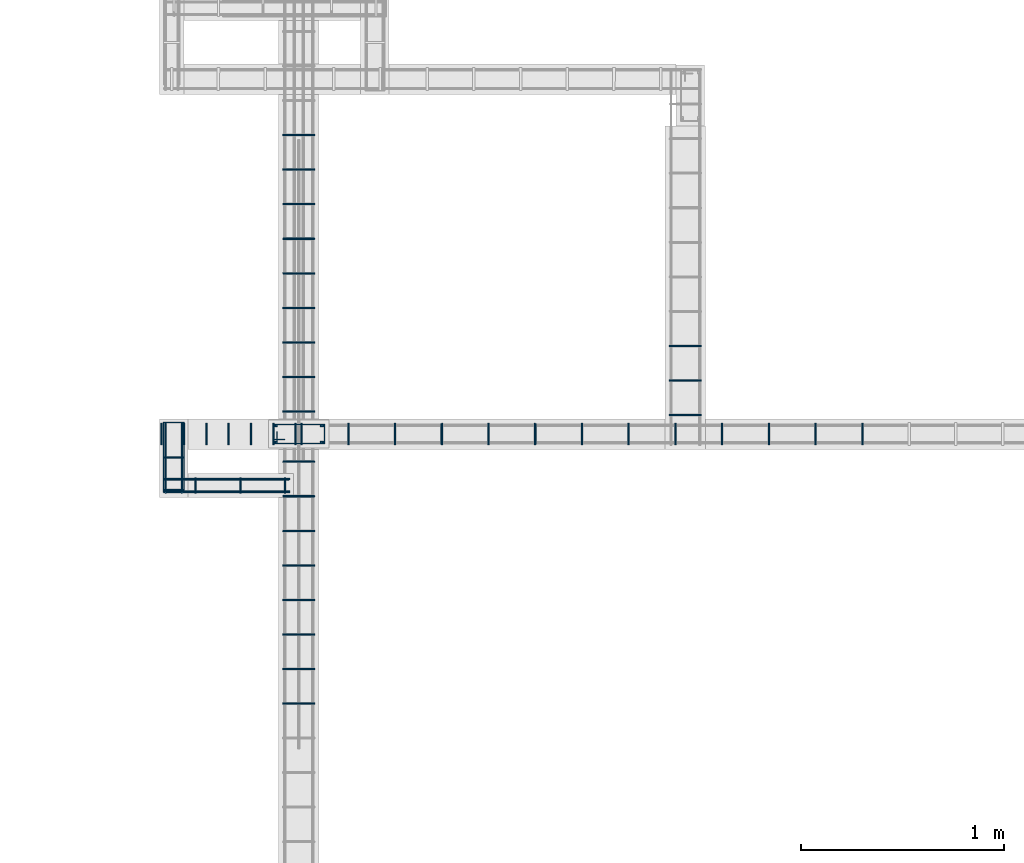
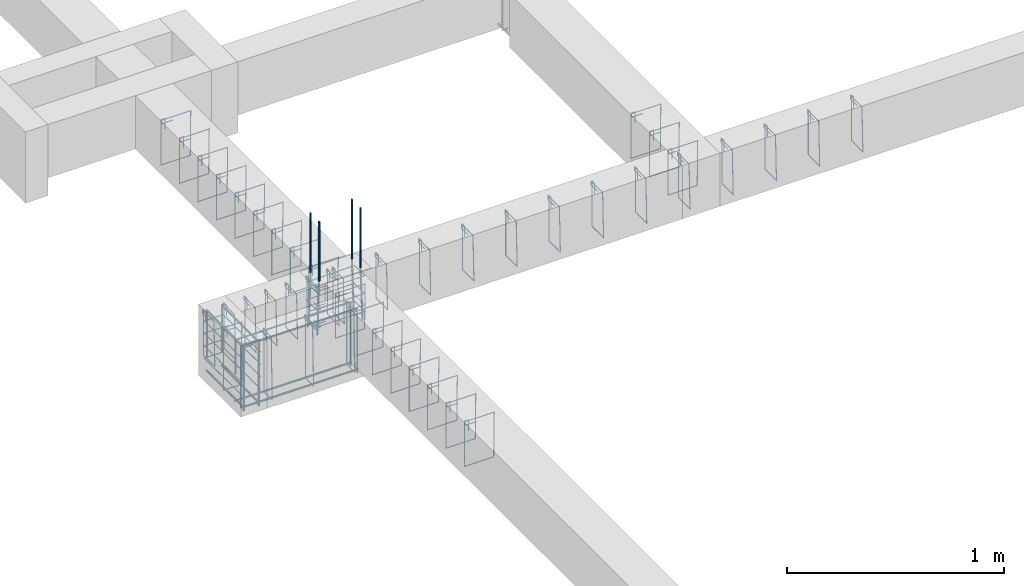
# One storey, part 74 of 150: 64 reinforcing bars.
"""IFC4 building model written with IfcOpenShell, lengths in centimetres."""

from ifc_helpers import new_model, entity, si_unit, derived_unit, frame, origin_with_axes, place, context, project, spatial, source, transform, mapped, element, save


model = new_model("IFC4")

# Units and contexts
model_context = context("Model", 3, precision=1e-05, world=origin_with_axes(), identifier="Body")
ifc_project = project(units=[si_unit("LENGTHUNIT", "METRE", prefix="CENTI"), si_unit("VOLUMEUNIT", "CUBIC_METRE"), si_unit("AREAUNIT", "SQUARE_METRE"), si_unit("POWERUNIT", "WATT"), si_unit("LUMINOUSFLUXUNIT", "LUMEN"), si_unit("ELECTRICCURRENTUNIT", "AMPERE"), si_unit("PRESSUREUNIT", "PASCAL", prefix="KILO"), si_unit("MASSUNIT", "GRAM", prefix="KILO"), si_unit("PLANEANGLEUNIT", "RADIAN"), derived_unit("VOLUMETRICFLOWRATEUNIT", [(si_unit("LENGTHUNIT", "METRE"), 3), (si_unit("TIMEUNIT", "SECOND"), -1)])], contexts=[model_context])

# Site, building, storey
site_placement = place(None, frame((-4000.0, 0.0, 0.0), z_axis=(0.0, 0.0, 1.0), x_axis=(1.0, 0.0, 0.0)))
site = spatial("IfcSite", under=ifc_project, at=site_placement, Name="PADRÃO")
building_placement = place(site_placement, frame((0.0, 0.0, -14.0)))
building = spatial("IfcBuilding", under=site, at=building_placement, Name="CRECHE PRÉ-ESCOLA TIPO 2")
placement = place(building_placement, origin_with_axes())
storey_placement = place(placement, frame((0.0, 0.0, 30.0), z_axis=(0.0, 0.0, 1.0), x_axis=(1.0, 0.0, 0.0)))
storey = spatial("IfcBuildingStorey", under=building, at=storey_placement, Name="VIGA BALDRAME", CompositionType="ELEMENT", Elevation=16.0)

# Reinforcing bars
shared_shape_1 = source(origin_with_axes(), model_context, "Body", "AdvancedSweptSolid", [
    entity("IfcSweptDiskSolid", entity("IfcCompositeCurve", [entity("IfcCompositeCurveSegment", "CONTINUOUS", True, entity("IfcPolyline", [entity("IfcCartesianPoint", [4.25, 21.75, 0.0]), entity("IfcCartesianPoint", [4.25, 27.75, 0.0])])), entity("IfcCompositeCurveSegment", "CONTINUOUS", True, entity("IfcPolyline", [entity("IfcCartesianPoint", [4.25, 27.75, 0.0]), entity("IfcCartesianPoint", [2.25, 27.75, 0.0])])), entity("IfcCompositeCurveSegment", "CONTINUOUS", True, entity("IfcPolyline", [entity("IfcCartesianPoint", [2.25, 27.75, 0.0]), entity("IfcCartesianPoint", [2.25, 2.25, 0.0])])), entity("IfcCompositeCurveSegment", "CONTINUOUS", True, entity("IfcPolyline", [entity("IfcCartesianPoint", [2.25, 2.25, 0.0]), entity("IfcCartesianPoint", [11.75, 2.25, 0.0])])), entity("IfcCompositeCurveSegment", "CONTINUOUS", True, entity("IfcPolyline", [entity("IfcCartesianPoint", [11.75, 2.25, 0.0]), entity("IfcCartesianPoint", [11.75, 27.75, -0.5])])), entity("IfcCompositeCurveSegment", "CONTINUOUS", True, entity("IfcPolyline", [entity("IfcCartesianPoint", [11.75, 27.75, -0.5]), entity("IfcCartesianPoint", [2.25, 27.75, -0.5])])), entity("IfcCompositeCurveSegment", "CONTINUOUS", True, entity("IfcPolyline", [entity("IfcCartesianPoint", [2.25, 27.75, -0.5]), entity("IfcCartesianPoint", [2.25, 25.75, -0.5])])), entity("IfcCompositeCurveSegment", "CONTINUOUS", True, entity("IfcPolyline", [entity("IfcCartesianPoint", [2.25, 25.75, -0.5]), entity("IfcCartesianPoint", [8.25, 25.75, -0.5])]))], False), 0.25),
])
for number, where, z_axis, x_axis, name in (
    (1, (2541.0, 1740.84, -15.0), (0.0, 0.0, 1.0), (0.0, 1.0, 0.0), "P98 - Estribo"),
    (2, (2541.0, 1740.84, -25.0), (0.0, 0.0, 1.0), (0.0, 1.0, 0.0), "P98 - Estribo"),
    (3, (2541.0, 1740.84, -5.0), (0.0, 0.0, 1.0), (0.0, 1.0, 0.0), "P98 - Estribo"),
):
    element("IfcReinforcingBar", number, at=place(storey_placement, frame(where, z_axis=z_axis, x_axis=x_axis)), inside=storey, Name=name, BarLength=0.0, CrossSectionArea=1.9634954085e-05, NominalDiameter=0.5, PredefinedType="MAIN", context=model_context, shape_type="MappedRepresentation", body=[
        mapped(shared_shape_1, transform((0.0, 0.0, 0.0), scale=1.0)),
    ])
shared_shape_2 = source(origin_with_axes(), model_context, "Body", "AdvancedSweptSolid", [
    entity("IfcSweptDiskSolid", entity("IfcCompositeCurve", [entity("IfcCompositeCurveSegment", "CONTINUOUS", True, entity("IfcPolyline", [entity("IfcCartesianPoint", [2.0, -6.0, 0.0]), entity("IfcCartesianPoint", [2.0, 0.0, 0.0])])), entity("IfcCompositeCurveSegment", "CONTINUOUS", True, entity("IfcPolyline", [entity("IfcCartesianPoint", [2.0, 0.0, 0.0]), entity("IfcCartesianPoint", [0.0, 0.0, 0.0])])), entity("IfcCompositeCurveSegment", "CONTINUOUS", True, entity("IfcPolyline", [entity("IfcCartesianPoint", [0.0, 0.0, 0.0]), entity("IfcCartesianPoint", [0.0, -25.5, 0.0])])), entity("IfcCompositeCurveSegment", "CONTINUOUS", True, entity("IfcPolyline", [entity("IfcCartesianPoint", [0.0, -25.5, 0.0]), entity("IfcCartesianPoint", [15.5, -25.5, 0.0])])), entity("IfcCompositeCurveSegment", "CONTINUOUS", True, entity("IfcPolyline", [entity("IfcCartesianPoint", [15.5, -25.5, 0.0]), entity("IfcCartesianPoint", [15.5, 0.0, 0.5])])), entity("IfcCompositeCurveSegment", "CONTINUOUS", True, entity("IfcPolyline", [entity("IfcCartesianPoint", [15.5, 0.0, 0.5]), entity("IfcCartesianPoint", [0.0, 0.0, 0.5])])), entity("IfcCompositeCurveSegment", "CONTINUOUS", True, entity("IfcPolyline", [entity("IfcCartesianPoint", [0.0, 0.0, 0.5]), entity("IfcCartesianPoint", [0.0, -2.0, 0.5])])), entity("IfcCompositeCurveSegment", "CONTINUOUS", True, entity("IfcPolyline", [entity("IfcCartesianPoint", [0.0, -2.0, 0.5]), entity("IfcCartesianPoint", [6.0, -2.0, 0.5])]))], False), 0.25),
])
for number, where, z_axis, x_axis, name in (
    (4, (2518.25, 1615.46, -2.25), (0.0, -1.0, 0.0), (1.0, 0.0, 0.0), "V196 - Estribo"),
    (5, (2518.25, 1632.46, -2.25), (0.0, -1.0, 0.0), (1.0, 0.0, 0.0), "V196 - Estribo"),
    (6, (2518.25, 1649.46, -2.25), (0.0, -1.0, 0.0), (1.0, 0.0, 0.0), "V196 - Estribo"),
    (7, (2518.25, 1734.46, -2.25), (0.0, -1.0, 0.0), (1.0, 0.0, 0.0), "V196 - Estribo"),
    (8, (2518.25, 1717.46, -2.25), (0.0, -1.0, 0.0), (1.0, 0.0, 0.0), "V196 - Estribo"),
    (9, (2518.25, 1700.46, -2.25), (0.0, -1.0, 0.0), (1.0, 0.0, 0.0), "V196 - Estribo"),
    (10, (2518.25, 1683.46, -2.25), (0.0, -1.0, 0.0), (1.0, 0.0, 0.0), "V196 - Estribo"),
    (11, (2518.25, 1666.46, -2.25), (0.0, -1.0, 0.0), (1.0, 0.0, 0.0), "V196 - Estribo"),
):
    element("IfcReinforcingBar", number, at=place(storey_placement, frame(where, z_axis=z_axis, x_axis=x_axis)), inside=storey, Name=name, BarLength=0.0, CrossSectionArea=1.9634954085e-05, NominalDiameter=0.5, PredefinedType="MAIN", context=model_context, shape_type="MappedRepresentation", body=[
        mapped(shared_shape_2, transform((0.0, 0.0, 0.0), scale=1.0)),
    ])
shared_shape_3 = source(origin_with_axes(), model_context, "Body", "AdvancedSweptSolid", [
    entity("IfcSweptDiskSolid", entity("IfcCompositeCurve", [entity("IfcCompositeCurveSegment", "CONTINUOUS", True, entity("IfcPolyline", [entity("IfcCartesianPoint", [2.0, -6.0, 0.0]), entity("IfcCartesianPoint", [2.0, 0.0, 0.0])])), entity("IfcCompositeCurveSegment", "CONTINUOUS", True, entity("IfcPolyline", [entity("IfcCartesianPoint", [2.0, 0.0, 0.0]), entity("IfcCartesianPoint", [0.0, 0.0, 0.0])])), entity("IfcCompositeCurveSegment", "CONTINUOUS", True, entity("IfcPolyline", [entity("IfcCartesianPoint", [0.0, 0.0, 0.0]), entity("IfcCartesianPoint", [0.0, -25.5, 0.0])])), entity("IfcCompositeCurveSegment", "CONTINUOUS", True, entity("IfcPolyline", [entity("IfcCartesianPoint", [0.0, -25.5, 0.0]), entity("IfcCartesianPoint", [15.5, -25.5, 0.0])])), entity("IfcCompositeCurveSegment", "CONTINUOUS", True, entity("IfcPolyline", [entity("IfcCartesianPoint", [15.5, -25.5, 0.0]), entity("IfcCartesianPoint", [15.5, 0.0, 0.5])])), entity("IfcCompositeCurveSegment", "CONTINUOUS", True, entity("IfcPolyline", [entity("IfcCartesianPoint", [15.5, 0.0, 0.5]), entity("IfcCartesianPoint", [0.0, 0.0, 0.5])])), entity("IfcCompositeCurveSegment", "CONTINUOUS", True, entity("IfcPolyline", [entity("IfcCartesianPoint", [0.0, 0.0, 0.5]), entity("IfcCartesianPoint", [0.0, -2.0, 0.5])])), entity("IfcCompositeCurveSegment", "CONTINUOUS", True, entity("IfcPolyline", [entity("IfcCartesianPoint", [0.0, -2.0, 0.5]), entity("IfcCartesianPoint", [6.0, -2.0, 0.5])]))], False), 0.25),
])
for number, where, z_axis, x_axis, name in (
    (12, (2518.25, 1776.18, -2.25), (0.0, -1.0, 0.0), (1.0, 0.0, 0.0), "V196 - Estribo"),
    (13, (2518.25, 1895.18, -2.25), (0.0, -1.0, 0.0), (1.0, 0.0, 0.0), "V196 - Estribo"),
    (14, (2518.25, 1878.18, -2.25), (0.0, -1.0, 0.0), (1.0, 0.0, 0.0), "V196 - Estribo"),
    (15, (2518.25, 1861.18, -2.25), (0.0, -1.0, 0.0), (1.0, 0.0, 0.0), "V196 - Estribo"),
    (16, (2518.25, 1844.18, -2.25), (0.0, -1.0, 0.0), (1.0, 0.0, 0.0), "V196 - Estribo"),
    (17, (2518.25, 1827.18, -2.25), (0.0, -1.0, 0.0), (1.0, 0.0, 0.0), "V196 - Estribo"),
    (18, (2518.25, 1810.18, -2.25), (0.0, -1.0, 0.0), (1.0, 0.0, 0.0), "V196 - Estribo"),
    (19, (2518.25, 1793.18, -2.25), (0.0, -1.0, 0.0), (1.0, 0.0, 0.0), "V196 - Estribo"),
    (20, (2518.25, 1759.18, -2.25), (0.0, -1.0, 0.0), (1.0, 0.0, 0.0), "V196 - Estribo"),
):
    element("IfcReinforcingBar", number, at=place(storey_placement, frame(where, z_axis=z_axis, x_axis=x_axis)), inside=storey, Name=name, BarLength=0.0, CrossSectionArea=1.9634954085e-05, NominalDiameter=0.5, PredefinedType="MAIN", context=model_context, shape_type="MappedRepresentation", body=[
        mapped(shared_shape_3, transform((0.0, 0.0, 0.0), scale=1.0)),
    ])
shared_shape_4 = source(origin_with_axes(), model_context, "Body", "AdvancedSweptSolid", [
    entity("IfcSweptDiskSolid", entity("IfcCompositeCurve", [entity("IfcCompositeCurveSegment", "CONTINUOUS", True, entity("IfcPolyline", [entity("IfcCartesianPoint", [2.0, -6.0, 0.0]), entity("IfcCartesianPoint", [2.0, 0.0, 0.0])])), entity("IfcCompositeCurveSegment", "CONTINUOUS", True, entity("IfcPolyline", [entity("IfcCartesianPoint", [2.0, 0.0, 0.0]), entity("IfcCartesianPoint", [0.0, 0.0, 0.0])])), entity("IfcCompositeCurveSegment", "CONTINUOUS", True, entity("IfcPolyline", [entity("IfcCartesianPoint", [0.0, 0.0, 0.0]), entity("IfcCartesianPoint", [0.0, -25.5, 0.0])])), entity("IfcCompositeCurveSegment", "CONTINUOUS", True, entity("IfcPolyline", [entity("IfcCartesianPoint", [0.0, -25.5, 0.0]), entity("IfcCartesianPoint", [15.5, -25.5, 0.0])])), entity("IfcCompositeCurveSegment", "CONTINUOUS", True, entity("IfcPolyline", [entity("IfcCartesianPoint", [15.5, -25.5, 0.0]), entity("IfcCartesianPoint", [15.5, 0.0, 0.5])])), entity("IfcCompositeCurveSegment", "CONTINUOUS", True, entity("IfcPolyline", [entity("IfcCartesianPoint", [15.5, 0.0, 0.5]), entity("IfcCartesianPoint", [0.0, 0.0, 0.5])])), entity("IfcCompositeCurveSegment", "CONTINUOUS", True, entity("IfcPolyline", [entity("IfcCartesianPoint", [0.0, 0.0, 0.5]), entity("IfcCartesianPoint", [0.0, -2.0, 0.5])])), entity("IfcCompositeCurveSegment", "CONTINUOUS", True, entity("IfcPolyline", [entity("IfcCartesianPoint", [0.0, -2.0, 0.5]), entity("IfcCartesianPoint", [6.0, -2.0, 0.5])]))], False), 0.25),
])
for number, where, z_axis, x_axis, name in (
    (21, (2708.5, 1757.43, -2.25), (0.0, -1.0, 0.0), (1.0, 0.0, 0.0), "V205 - Estribo"),
    (22, (2708.5, 1774.43, -2.25), (0.0, -1.0, 0.0), (1.0, 0.0, 0.0), "V205 - Estribo"),
    (23, (2708.5, 1791.43, -2.25), (0.0, -1.0, 0.0), (1.0, 0.0, 0.0), "V205 - Estribo"),
):
    element("IfcReinforcingBar", number, at=place(storey_placement, frame(where, z_axis=z_axis, x_axis=x_axis)), inside=storey, Name=name, BarLength=0.0, CrossSectionArea=1.9634954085e-05, NominalDiameter=0.5, PredefinedType="MAIN", context=model_context, shape_type="MappedRepresentation", body=[
        mapped(shared_shape_4, transform((0.0, 0.0, 0.0), scale=1.0)),
    ])
shared_shape_5 = source(origin_with_axes(), model_context, "Body", "AdvancedSweptSolid", [
    entity("IfcSweptDiskSolid", entity("IfcCompositeCurve", [entity("IfcCompositeCurveSegment", "CONTINUOUS", True, entity("IfcPolyline", [entity("IfcCartesianPoint", [2.0, -6.0, 0.0]), entity("IfcCartesianPoint", [2.0, 0.0, 0.0])])), entity("IfcCompositeCurveSegment", "CONTINUOUS", True, entity("IfcPolyline", [entity("IfcCartesianPoint", [2.0, 0.0, 0.0]), entity("IfcCartesianPoint", [0.0, 0.0, 0.0])])), entity("IfcCompositeCurveSegment", "CONTINUOUS", True, entity("IfcPolyline", [entity("IfcCartesianPoint", [0.0, 0.0, 0.0]), entity("IfcCartesianPoint", [0.0, -35.5, 0.0])])), entity("IfcCompositeCurveSegment", "CONTINUOUS", True, entity("IfcPolyline", [entity("IfcCartesianPoint", [0.0, -35.5, 0.0]), entity("IfcCartesianPoint", [7.5, -35.5, 0.0])])), entity("IfcCompositeCurveSegment", "CONTINUOUS", True, entity("IfcPolyline", [entity("IfcCartesianPoint", [7.5, -35.5, 0.0]), entity("IfcCartesianPoint", [7.5, 0.0, 0.5])])), entity("IfcCompositeCurveSegment", "CONTINUOUS", True, entity("IfcPolyline", [entity("IfcCartesianPoint", [7.5, 0.0, 0.5]), entity("IfcCartesianPoint", [0.0, 0.0, 0.5])])), entity("IfcCompositeCurveSegment", "CONTINUOUS", True, entity("IfcPolyline", [entity("IfcCartesianPoint", [0.0, 0.0, 0.5]), entity("IfcCartesianPoint", [0.0, -2.0, 0.5])])), entity("IfcCompositeCurveSegment", "CONTINUOUS", True, entity("IfcPolyline", [entity("IfcCartesianPoint", [0.0, -2.0, 0.5]), entity("IfcCartesianPoint", [6.0, -2.0, 0.5])]))], False), 0.25),
])
for number, where, z_axis, x_axis, name in (
    (24, (2519.5, 1726.26, -2.25), (-1.0, 0.0, 0.0), (0.0, -1.0, 0.0), "V132 - Estribo"),
    (25, (2497.5, 1726.26, -2.25), (-1.0, 0.0, 0.0), (0.0, -1.0, 0.0), "V132 - Estribo"),
    (26, (2475.5, 1726.26, -2.25), (-1.0, 0.0, 0.0), (0.0, -1.0, 0.0), "V132 - Estribo"),
):
    element("IfcReinforcingBar", number, at=place(storey_placement, frame(where, z_axis=z_axis, x_axis=x_axis)), inside=storey, Name=name, BarLength=0.0, CrossSectionArea=1.9634954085e-05, NominalDiameter=0.5, PredefinedType="MAIN", context=model_context, shape_type="MappedRepresentation", body=[
        mapped(shared_shape_5, transform((0.0, 0.0, 0.0), scale=1.0)),
    ])
shared_shape_6 = source(origin_with_axes(), model_context, "Body", "AdvancedSweptSolid", [
    entity("IfcSweptDiskSolid", entity("IfcCompositeCurve", [entity("IfcCompositeCurveSegment", "CONTINUOUS", True, entity("IfcPolyline", [entity("IfcCartesianPoint", [2.0, -6.0, 0.0]), entity("IfcCartesianPoint", [2.0, 0.0, 0.0])])), entity("IfcCompositeCurveSegment", "CONTINUOUS", True, entity("IfcPolyline", [entity("IfcCartesianPoint", [2.0, 0.0, 0.0]), entity("IfcCartesianPoint", [0.0, 0.0, 0.0])])), entity("IfcCompositeCurveSegment", "CONTINUOUS", True, entity("IfcPolyline", [entity("IfcCartesianPoint", [0.0, 0.0, 0.0]), entity("IfcCartesianPoint", [0.0, -35.5, 0.0])])), entity("IfcCompositeCurveSegment", "CONTINUOUS", True, entity("IfcPolyline", [entity("IfcCartesianPoint", [0.0, -35.5, 0.0]), entity("IfcCartesianPoint", [9.5, -35.5, 0.0])])), entity("IfcCompositeCurveSegment", "CONTINUOUS", True, entity("IfcPolyline", [entity("IfcCartesianPoint", [9.5, -35.5, 0.0]), entity("IfcCartesianPoint", [9.5, 0.0, 0.5])])), entity("IfcCompositeCurveSegment", "CONTINUOUS", True, entity("IfcPolyline", [entity("IfcCartesianPoint", [9.5, 0.0, 0.5]), entity("IfcCartesianPoint", [0.0, 0.0, 0.5])])), entity("IfcCompositeCurveSegment", "CONTINUOUS", True, entity("IfcPolyline", [entity("IfcCartesianPoint", [0.0, 0.0, 0.5]), entity("IfcCartesianPoint", [0.0, -2.0, 0.5])])), entity("IfcCompositeCurveSegment", "CONTINUOUS", True, entity("IfcPolyline", [entity("IfcCartesianPoint", [0.0, -2.0, 0.5]), entity("IfcCartesianPoint", [6.0, -2.0, 0.5])]))], False), 0.25),
])
for number, where, z_axis, x_axis, name in (
    (27, (2459.75, 1736.425, -2.25), (0.0, -1.0, 0.0), (1.0, 0.0, 0.0), "V194 - Estribo"),
    (28, (2459.75, 1720.425, -2.25), (0.0, -1.0, 0.0), (1.0, 0.0, 0.0), "V194 - Estribo"),
):
    element("IfcReinforcingBar", number, at=place(storey_placement, frame(where, z_axis=z_axis, x_axis=x_axis)), inside=storey, Name=name, BarLength=0.0, CrossSectionArea=1.9634954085e-05, NominalDiameter=0.5, PredefinedType="MAIN", context=model_context, shape_type="MappedRepresentation", body=[
        mapped(shared_shape_6, transform((0.0, 0.0, 0.0), scale=1.0)),
    ])
shared_shape_7 = source(origin_with_axes(), model_context, "Body", "AdvancedSweptSolid", [
    entity("IfcSweptDiskSolid", entity("IfcCompositeCurve", [entity("IfcCompositeCurveSegment", "CONTINUOUS", True, entity("IfcPolyline", [entity("IfcCartesianPoint", [0.0, 0.0, 0.0]), entity("IfcCartesianPoint", [0.0, 34.58, 0.0])])), entity("IfcCompositeCurveSegment", "CONTINUOUS", True, entity("IfcPolyline", [entity("IfcCartesianPoint", [0.0, 34.58, 0.0]), entity("IfcCartesianPoint", [-10.0, 34.58, 0.0])])), entity("IfcCompositeCurveSegment", "CONTINUOUS", True, entity("IfcPolyline", [entity("IfcCartesianPoint", [-10.0, 34.58, 0.0]), entity("IfcCartesianPoint", [-10.0, 0.0, 0.0])]))], False), 0.25),
])
for number, where, z_axis, x_axis, name in (
    (29, (2469.5, 1719.01, -9.0), (0.0, 0.0, 1.0), (1.0, 0.0, 0.0), "V194 - Grampo"),
    (30, (2469.5, 1719.01, -16.0), (0.0, 0.0, 1.0), (1.0, 0.0, 0.0), "V194 - Grampo"),
    (31, (2469.5, 1719.01, -23.0), (0.0, 0.0, 1.0), (1.0, 0.0, 0.0), "V194 - Grampo"),
    (32, (2469.5, 1719.01, -30.0), (0.0, 0.0, 1.0), (1.0, 0.0, 0.0), "V194 - Grampo"),
):
    element("IfcReinforcingBar", number, at=place(storey_placement, frame(where, z_axis=z_axis, x_axis=x_axis)), inside=storey, Name=name, BarLength=0.0, CrossSectionArea=1.9634954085e-05, NominalDiameter=0.5, PredefinedType="MAIN", context=model_context, shape_type="MappedRepresentation", body=[
        mapped(shared_shape_7, transform((0.0, 0.0, 0.0), scale=1.0)),
    ])
shared_shape_8 = source(origin_with_axes(), model_context, "Body", "AdvancedSweptSolid", [
    entity("IfcSweptDiskSolid", entity("IfcCompositeCurve", [entity("IfcCompositeCurveSegment", "CONTINUOUS", True, entity("IfcPolyline", [entity("IfcCartesianPoint", [2.0, -6.0, 0.0]), entity("IfcCartesianPoint", [2.0, 0.0, 0.0])])), entity("IfcCompositeCurveSegment", "CONTINUOUS", True, entity("IfcPolyline", [entity("IfcCartesianPoint", [2.0, 0.0, 0.0]), entity("IfcCartesianPoint", [0.0, 0.0, 0.0])])), entity("IfcCompositeCurveSegment", "CONTINUOUS", True, entity("IfcPolyline", [entity("IfcCartesianPoint", [0.0, 0.0, 0.0]), entity("IfcCartesianPoint", [0.0, -25.5, 0.0])])), entity("IfcCompositeCurveSegment", "CONTINUOUS", True, entity("IfcPolyline", [entity("IfcCartesianPoint", [0.0, -25.5, 0.0]), entity("IfcCartesianPoint", [10.5, -25.5, 0.0])])), entity("IfcCompositeCurveSegment", "CONTINUOUS", True, entity("IfcPolyline", [entity("IfcCartesianPoint", [10.5, -25.5, 0.0]), entity("IfcCartesianPoint", [10.5, 0.0, 0.5])])), entity("IfcCompositeCurveSegment", "CONTINUOUS", True, entity("IfcPolyline", [entity("IfcCartesianPoint", [10.5, 0.0, 0.5]), entity("IfcCartesianPoint", [0.0, 0.0, 0.5])])), entity("IfcCompositeCurveSegment", "CONTINUOUS", True, entity("IfcPolyline", [entity("IfcCartesianPoint", [0.0, 0.0, 0.5]), entity("IfcCartesianPoint", [0.0, -2.0, 0.5])])), entity("IfcCompositeCurveSegment", "CONTINUOUS", True, entity("IfcPolyline", [entity("IfcCartesianPoint", [0.0, -2.0, 0.5]), entity("IfcCartesianPoint", [6.0, -2.0, 0.5])]))], False), 0.25),
])
for number, where, z_axis, x_axis, name in (
    (33, (2491.75, 1753.09, -2.25), (-1.0, 0.0, 0.0), (0.0, -1.0, 0.0), "V133 - Estribo"),
    (34, (2480.75, 1753.09, -2.25), (-1.0, 0.0, 0.0), (0.0, -1.0, 0.0), "V133 - Estribo"),
    (35, (2502.75, 1753.09, -2.25), (-1.0, 0.0, 0.0), (0.0, -1.0, 0.0), "V133 - Estribo"),
    (36, (2458.75, 1753.09, -2.25), (-1.0, 0.0, 0.0), (0.0, -1.0, 0.0), "V133 - Estribo"),
    (37, (2469.75, 1753.09, -2.25), (-1.0, 0.0, 0.0), (0.0, -1.0, 0.0), "V133 - Estribo"),
    (38, (2524.75, 1753.09, -2.25), (-1.0, 0.0, 0.0), (0.0, -1.0, 0.0), "V133 - Estribo"),
    (39, (2513.75, 1753.09, -2.25), (-1.0, 0.0, 0.0), (0.0, -1.0, 0.0), "V133 - Estribo"),
):
    element("IfcReinforcingBar", number, at=place(storey_placement, frame(where, z_axis=z_axis, x_axis=x_axis)), inside=storey, Name=name, BarLength=0.0, CrossSectionArea=1.9634954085e-05, NominalDiameter=0.5, PredefinedType="MAIN", context=model_context, shape_type="MappedRepresentation", body=[
        mapped(shared_shape_8, transform((0.0, 0.0, 0.0), scale=1.0)),
    ])
shared_shape_9 = source(origin_with_axes(), model_context, "Body", "AdvancedSweptSolid", [
    entity("IfcSweptDiskSolid", entity("IfcCompositeCurve", [entity("IfcCompositeCurveSegment", "CONTINUOUS", True, entity("IfcPolyline", [entity("IfcCartesianPoint", [2.0, -6.0, 0.0]), entity("IfcCartesianPoint", [2.0, 0.0, 0.0])])), entity("IfcCompositeCurveSegment", "CONTINUOUS", True, entity("IfcPolyline", [entity("IfcCartesianPoint", [2.0, 0.0, 0.0]), entity("IfcCartesianPoint", [0.0, 0.0, 0.0])])), entity("IfcCompositeCurveSegment", "CONTINUOUS", True, entity("IfcPolyline", [entity("IfcCartesianPoint", [0.0, 0.0, 0.0]), entity("IfcCartesianPoint", [0.0, -25.5, 0.0])])), entity("IfcCompositeCurveSegment", "CONTINUOUS", True, entity("IfcPolyline", [entity("IfcCartesianPoint", [0.0, -25.5, 0.0]), entity("IfcCartesianPoint", [10.5, -25.5, 0.0])])), entity("IfcCompositeCurveSegment", "CONTINUOUS", True, entity("IfcPolyline", [entity("IfcCartesianPoint", [10.5, -25.5, 0.0]), entity("IfcCartesianPoint", [10.5, 0.0, 0.5])])), entity("IfcCompositeCurveSegment", "CONTINUOUS", True, entity("IfcPolyline", [entity("IfcCartesianPoint", [10.5, 0.0, 0.5]), entity("IfcCartesianPoint", [0.0, 0.0, 0.5])])), entity("IfcCompositeCurveSegment", "CONTINUOUS", True, entity("IfcPolyline", [entity("IfcCartesianPoint", [0.0, 0.0, 0.5]), entity("IfcCartesianPoint", [0.0, -2.0, 0.5])])), entity("IfcCompositeCurveSegment", "CONTINUOUS", True, entity("IfcPolyline", [entity("IfcCartesianPoint", [0.0, -2.0, 0.5]), entity("IfcCartesianPoint", [6.0, -2.0, 0.5])]))], False), 0.25),
])
for number, where, z_axis, x_axis, name in (
    (40, (2665.62, 1753.09, -2.25), (-1.0, 0.0, 0.0), (0.0, -1.0, 0.0), "V133 - Estribo"),
    (41, (2642.62, 1753.09, -2.25), (-1.0, 0.0, 0.0), (0.0, -1.0, 0.0), "V133 - Estribo"),
    (42, (2619.62, 1753.09, -2.25), (-1.0, 0.0, 0.0), (0.0, -1.0, 0.0), "V133 - Estribo"),
    (43, (2803.62, 1753.09, -2.25), (-1.0, 0.0, 0.0), (0.0, -1.0, 0.0), "V133 - Estribo"),
    (44, (2527.62, 1753.09, -2.25), (-1.0, 0.0, 0.0), (0.0, -1.0, 0.0), "V133 - Estribo"),
    (45, (2596.62, 1753.09, -2.25), (-1.0, 0.0, 0.0), (0.0, -1.0, 0.0), "V133 - Estribo"),
    (46, (2573.62, 1753.09, -2.25), (-1.0, 0.0, 0.0), (0.0, -1.0, 0.0), "V133 - Estribo"),
    (47, (2550.62, 1753.09, -2.25), (-1.0, 0.0, 0.0), (0.0, -1.0, 0.0), "V133 - Estribo"),
    (48, (2780.62, 1753.09, -2.25), (-1.0, 0.0, 0.0), (0.0, -1.0, 0.0), "V133 - Estribo"),
    (49, (2757.62, 1753.09, -2.25), (-1.0, 0.0, 0.0), (0.0, -1.0, 0.0), "V133 - Estribo"),
    (50, (2734.62, 1753.09, -2.25), (-1.0, 0.0, 0.0), (0.0, -1.0, 0.0), "V133 - Estribo"),
    (51, (2711.62, 1753.09, -2.25), (-1.0, 0.0, 0.0), (0.0, -1.0, 0.0), "V133 - Estribo"),
    (52, (2688.62, 1753.09, -2.25), (-1.0, 0.0, 0.0), (0.0, -1.0, 0.0), "V133 - Estribo"),
):
    element("IfcReinforcingBar", number, at=place(storey_placement, frame(where, z_axis=z_axis, x_axis=x_axis)), inside=storey, Name=name, BarLength=0.0, CrossSectionArea=1.9634954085e-05, NominalDiameter=0.5, PredefinedType="MAIN", context=model_context, shape_type="MappedRepresentation", body=[
        mapped(shared_shape_9, transform((0.0, 0.0, 0.0), scale=1.0)),
    ])
reinforcing_bar_1_placement = place(storey_placement, frame((2514.50013877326, 1751.84, 33.3573001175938), z_axis=(0.0, 0.0, 1.0), x_axis=(1.0, 0.0, 0.0)))
element("IfcReinforcingBar", 53, at=reinforcing_bar_1_placement, inside=storey, Name="P98 - Longitudinal", BarLength=0.0, CrossSectionArea=7.853981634e-05, NominalDiameter=1.0, PredefinedType="MAIN", context=model_context, shape_type="AdvancedSweptSolid", body=[
    entity("IfcSweptDiskSolid", entity("IfcCompositeCurve", [entity("IfcCompositeCurveSegment", "CONTINUOUS", True, entity("IfcPolyline", [entity("IfcCartesianPoint", [-0.500138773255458, 0.0, -63.3573001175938]), entity("IfcCartesianPoint", [0.499861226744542, 0.0, -33.3573001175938])])), entity("IfcCompositeCurveSegment", "CONTINUOUS", True, entity("IfcPolyline", [entity("IfcCartesianPoint", [0.499861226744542, 0.0, -33.3573001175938]), entity("IfcCartesianPoint", [0.499861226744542, 0.0, 0.0])]))], False), 0.5),
])
for number, where, z_axis, x_axis, name in (
    (54, (2537.49986122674, 1751.84, 33.3573001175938), (0.0, 0.0, 1.0), (1.0, 0.0, 0.0), "P98 - Longitudinal"),
    (55, (2537.49986122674, 1743.84, 33.3573001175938), (0.0, 0.0, 1.0), (1.0, 0.0, 0.0), "P98 - Longitudinal"),
):
    element("IfcReinforcingBar", number, at=place(storey_placement, frame(where, z_axis=z_axis, x_axis=x_axis)), inside=storey, Name=name, BarLength=0.0, CrossSectionArea=7.853981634e-05, NominalDiameter=1.0, PredefinedType="MAIN", context=model_context, shape_type="AdvancedSweptSolid", body=[
        entity("IfcSweptDiskSolid", entity("IfcCompositeCurve", [entity("IfcCompositeCurveSegment", "CONTINUOUS", True, entity("IfcPolyline", [entity("IfcCartesianPoint", [0.500138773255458, 0.0, -63.3573001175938]), entity("IfcCartesianPoint", [-0.499861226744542, 0.0, -33.3573001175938])])), entity("IfcCompositeCurveSegment", "CONTINUOUS", True, entity("IfcPolyline", [entity("IfcCartesianPoint", [-0.499861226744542, 0.0, -33.3573001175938]), entity("IfcCartesianPoint", [-0.499861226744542, 0.0, 0.0])]))], False), 0.5),
    ])
reinforcing_bar_2_placement = place(storey_placement, frame((2514.50013877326, 1743.84, 33.3573001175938), z_axis=(0.0, 0.0, 1.0), x_axis=(1.0, 0.0, 0.0)))
element("IfcReinforcingBar", 56, at=reinforcing_bar_2_placement, inside=storey, Name="P98 - Longitudinal", BarLength=0.0, CrossSectionArea=7.853981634e-05, NominalDiameter=1.0, PredefinedType="MAIN", context=model_context, shape_type="AdvancedSweptSolid", body=[
    entity("IfcSweptDiskSolid", entity("IfcCompositeCurve", [entity("IfcCompositeCurveSegment", "CONTINUOUS", True, entity("IfcPolyline", [entity("IfcCartesianPoint", [-0.500138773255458, 0.0, -63.3573001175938]), entity("IfcCartesianPoint", [0.499861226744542, 0.0, -33.3573001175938])])), entity("IfcCompositeCurveSegment", "CONTINUOUS", True, entity("IfcPolyline", [entity("IfcCartesianPoint", [0.499861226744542, 0.0, -33.3573001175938]), entity("IfcCartesianPoint", [0.499861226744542, 0.0, 0.0])]))], False), 0.5),
])
for number, where, z_axis, x_axis, name in (
    (57, (2490.5, 1719.41, -36.7), (0.0, 0.0, 1.0), (1.0, 0.0, 0.0), "V132 - Longitudinal inferior"),
    (58, (2490.5, 1725.61, -36.7), (0.0, 0.0, 1.0), (1.0, 0.0, 0.0), "V132 - Longitudinal inferior"),
):
    element("IfcReinforcingBar", number, at=place(storey_placement, frame(where, z_axis=z_axis, x_axis=x_axis)), inside=storey, Name=name, BarLength=0.0, CrossSectionArea=5.0265482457e-05, NominalDiameter=0.8, PredefinedType="MAIN", context=model_context, shape_type="AdvancedSweptSolid", body=[
        entity("IfcSweptDiskSolid", entity("IfcCompositeCurve", [entity("IfcCompositeCurveSegment", "CONTINUOUS", True, entity("IfcPolyline", [entity("IfcCartesianPoint", [-31.0, 0.0, -0.4]), entity("IfcCartesianPoint", [31.0, 0.0, -0.4])]))], False), 0.4),
    ])
for number, where, z_axis, x_axis, name in (
    (59, (2490.5, 1719.41, -2.49624973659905), (0.0, 0.0, 1.0), (1.0, 0.0, 0.0), "V132 - Longitudinal superior"),
    (60, (2490.5, 1725.61, -2.49624973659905), (0.0, 0.0, 1.0), (1.0, 0.0, 0.0), "V132 - Longitudinal superior"),
):
    element("IfcReinforcingBar", number, at=place(storey_placement, frame(where, z_axis=z_axis, x_axis=x_axis)), inside=storey, Name=name, BarLength=0.0, CrossSectionArea=5.0265482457e-05, NominalDiameter=0.8, PredefinedType="MAIN", context=model_context, shape_type="AdvancedSweptSolid", body=[
        entity("IfcSweptDiskSolid", entity("IfcCompositeCurve", [entity("IfcCompositeCurveSegment", "CONTINUOUS", True, entity("IfcPolyline", [entity("IfcCartesianPoint", [-30.6, 0.0, -19.5160753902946]), entity("IfcCartesianPoint", [-30.6, 0.0, -0.403750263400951])])), entity("IfcCompositeCurveSegment", "CONTINUOUS", True, entity("IfcPolyline", [entity("IfcCartesianPoint", [-30.6, 0.0, -0.403750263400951]), entity("IfcCartesianPoint", [30.6, 0.0, -0.403750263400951])])), entity("IfcCompositeCurveSegment", "CONTINUOUS", True, entity("IfcPolyline", [entity("IfcCartesianPoint", [30.6, 0.0, -0.403750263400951]), entity("IfcCartesianPoint", [30.6, 0.0, -36.403750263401])]))], False), 0.4),
    ])
for number, where, z_axis, x_axis, name in (
    (61, (2460.5, 1735.92265608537, -10.6289080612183), (0.0, 0.0, 1.0), (1.0, 0.0, 0.0), "V194 - Longitudinal inferior"),
    (62, (2468.5, 1735.92265608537, -10.6289080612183), (0.0, 0.0, 1.0), (1.0, 0.0, 0.0), "V194 - Longitudinal inferior"),
):
    element("IfcReinforcingBar", number, at=place(storey_placement, frame(where, z_axis=z_axis, x_axis=x_axis)), inside=storey, Name=name, BarLength=0.0, CrossSectionArea=7.853981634e-05, NominalDiameter=1.0, PredefinedType="MAIN", context=model_context, shape_type="AdvancedSweptSolid", body=[
        entity("IfcSweptDiskSolid", entity("IfcCompositeCurve", [entity("IfcCompositeCurveSegment", "CONTINUOUS", True, entity("IfcPolyline", [entity("IfcCartesianPoint", [0.0, -16.9126560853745, 0.0]), entity("IfcCartesianPoint", [0.0, -16.9126560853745, -26.3710919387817])])), entity("IfcCompositeCurveSegment", "CONTINUOUS", True, entity("IfcPolyline", [entity("IfcCartesianPoint", [0.0, -16.9126560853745, -26.3710919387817]), entity("IfcCartesianPoint", [0.0, 17.4173439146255, -26.3710919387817])]))], False), 0.5),
    ])
for number, where, z_axis, x_axis, name in (
    (63, (2460.5, 1735.925, -2.49531217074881), (0.0, 0.0, 1.0), (1.0, 0.0, 0.0), "V194 - Longitudinal superior"),
    (64, (2468.5, 1735.925, -2.49531217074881), (0.0, 0.0, 1.0), (1.0, 0.0, 0.0), "V194 - Longitudinal superior"),
):
    element("IfcReinforcingBar", number, at=place(storey_placement, frame(where, z_axis=z_axis, x_axis=x_axis)), inside=storey, Name=name, BarLength=0.0, CrossSectionArea=7.853981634e-05, NominalDiameter=1.0, PredefinedType="MAIN", context=model_context, shape_type="AdvancedSweptSolid", body=[
        entity("IfcSweptDiskSolid", entity("IfcCompositeCurve", [entity("IfcCompositeCurveSegment", "CONTINUOUS", True, entity("IfcPolyline", [entity("IfcCartesianPoint", [0.0, -16.915, -36.5046878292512]), entity("IfcCartesianPoint", [0.0, -16.915, -0.504687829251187])])), entity("IfcCompositeCurveSegment", "CONTINUOUS", True, entity("IfcPolyline", [entity("IfcCartesianPoint", [0.0, -16.915, -0.504687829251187]), entity("IfcCartesianPoint", [0.0, 16.915, -0.504687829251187])])), entity("IfcCompositeCurveSegment", "CONTINUOUS", True, entity("IfcPolyline", [entity("IfcCartesianPoint", [0.0, 16.915, -0.504687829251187]), entity("IfcCartesianPoint", [0.0, 16.915, -26.9051796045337])]))], False), 0.5),
    ])

save(model, "model.ifc")
